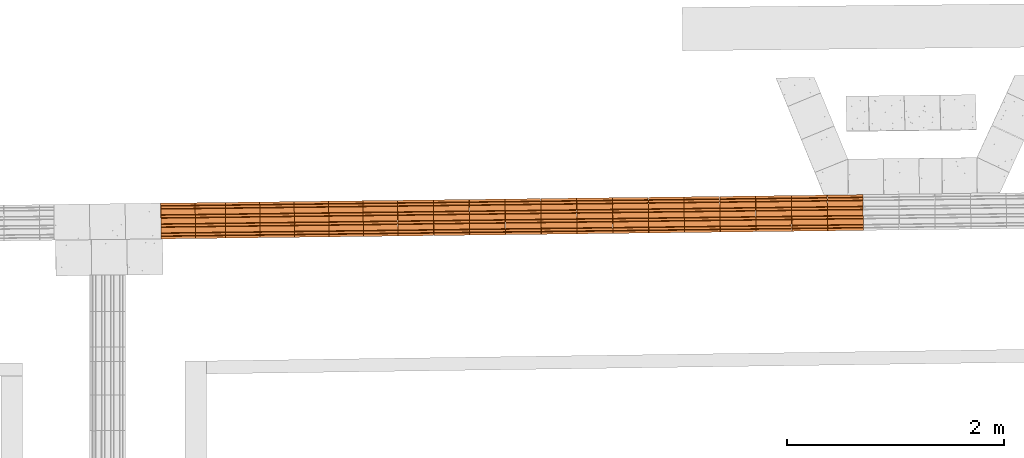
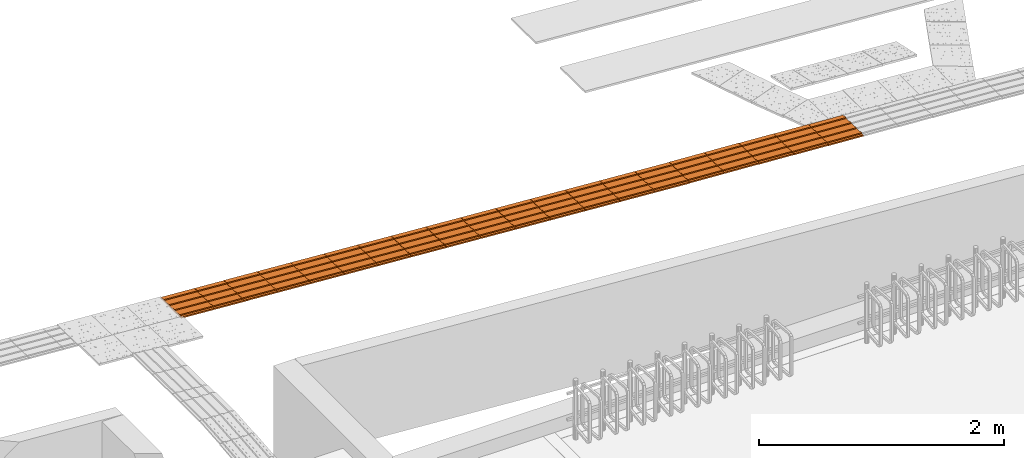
# One storey, part 203 of 237: 20 proxies.
"""IFC2X3 building model written with IfcOpenShell, lengths in millimetres."""

from ifc_helpers import new_model, entity, si_unit, converted_unit, derived_unit, money_unit, direction, frame, origin_with_axes, place, context, subcontext, project, spatial, open_shell, surface_model, source, transform, mapped, type_object, element, save


model = new_model("IFC2X3")

# Units and contexts
model_context = context("Model", 3, precision=0.01, world=origin_with_axes(), true_north=direction((0.0, 1.0)))
body_context = subcontext(model_context, "Body", "Model", "MODEL_VIEW")
ifc_project = project(units=[si_unit("LENGTHUNIT", "METRE", prefix="MILLI"), si_unit("AREAUNIT", "SQUARE_METRE"), si_unit("VOLUMEUNIT", "CUBIC_METRE"), converted_unit("PLANEANGLEUNIT", "DEGREE", entity("IfcPlaneAngleMeasure", 0.0174532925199), si_unit("PLANEANGLEUNIT", "RADIAN"), dimensions=[0, 0, 0, 0, 0, 0, 0]), money_unit("USD"), converted_unit("TIMEUNIT", "Year", entity("IfcTimeMeasure", 31556926.0), si_unit("TIMEUNIT", "SECOND"), dimensions=[0, 0, 1, 0, 0, 0, 0]), si_unit("MASSUNIT", "GRAM", prefix="KILO"), si_unit("THERMODYNAMICTEMPERATUREUNIT", "DEGREE_CELSIUS"), si_unit("LUMINOUSINTENSITYUNIT", "LUMEN"), si_unit("ENERGYUNIT", "JOULE", prefix="MEGA"), derived_unit("THERMALCONDUCTANCEUNIT", [(si_unit("POWERUNIT", "WATT"), 1), (si_unit("LENGTHUNIT", "METRE"), -1), (si_unit("THERMODYNAMICTEMPERATUREUNIT", "KELVIN"), -1)]), derived_unit("SPECIFICHEATCAPACITYUNIT", [(si_unit("ENERGYUNIT", "JOULE"), 1), (si_unit("MASSUNIT", "GRAM", prefix="KILO"), -1), (si_unit("THERMODYNAMICTEMPERATUREUNIT", "KELVIN"), -1)]), derived_unit("MASSDENSITYUNIT", [(si_unit("MASSUNIT", "GRAM", prefix="KILO"), 1), (si_unit("VOLUMEUNIT", "CUBIC_METRE"), -1)])], contexts=[model_context])

# Site, building, storey
site_placement = place(None, origin_with_axes())
site = spatial("IfcSite", under=ifc_project, at=site_placement, Name="Local", CompositionType="ELEMENT")
building_placement = place(site_placement, origin_with_axes())
building = spatial("IfcBuilding", under=site, at=building_placement, Name="Construção", CompositionType="ELEMENT")
storey_placement = place(building_placement, origin_with_axes())
storey = spatial("IfcBuildingStorey", under=building, at=storey_placement, Name="Pavimento Térreo", CompositionType="ELEMENT", Elevation=0.0)

# Proxies
building_element_proxy_type = type_object("IfcBuildingElementProxyType", Name="Piso Direcional 27", PredefinedType="NOTDEFINED")
shared_shape_1 = source(origin_with_axes(), body_context, "Body", "SurfaceModel", [
    surface_model("IfcShellBasedSurfaceModel", [(-0.316074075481, -47.2564877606, 4.01610191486), (317.647804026, -47.2564877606, 29.04040183), (317.124743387, -41.6634730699, 35.6865173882), (-0.839134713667, -41.6634730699, 10.6622174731)], [open_shell([[[0, 1, 2, 3]]])]),
    surface_model("IfcShellBasedSurfaceModel", [(318.693925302, -153.523766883, 15.7481707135), (318.693925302, 176.464099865, 15.7481707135), (317.647804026, 176.464099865, 29.04040183), (317.647804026, 154.092041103, 29.04040183), (317.124743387, 148.499026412, 35.6865173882), (317.124743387, 126.12696765, 35.6865173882), (317.647804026, 120.533952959, 29.04040183), (317.647804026, 70.1968207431, 29.04040183), (317.124743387, 64.6038060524, 35.6865173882), (317.124743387, 42.2317472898, 35.6865173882), (317.647804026, 36.6387325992, 29.04040183), (317.647804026, -13.6983996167, 29.04040183), (317.124743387, -19.2914143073, 35.6865173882), (317.124743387, -41.6634730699, 35.6865173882), (317.647804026, -47.2564877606, 29.04040183), (317.647804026, -97.5936199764, 29.04040183), (317.124743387, -103.186634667, 35.6865173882), (317.124743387, -125.55869343, 35.6865173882), (317.647804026, -131.15170812, 29.04040183), (317.647804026, -153.523766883, 29.04040183)], [open_shell([[[0, 1, 2, 3, 4, 5, 6, 7, 8, 9, 10, 11, 12, 13, 14, 15, 16, 17, 18, 19]]])]),
    surface_model("IfcShellBasedSurfaceModel", [(-0.839134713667, -19.2914143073, 10.6622174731), (317.124743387, -19.2914143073, 35.6865173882), (317.647804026, -13.6983996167, 29.04040183), (-0.316074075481, -13.6983996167, 4.01610191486)], [open_shell([[[0, 1, 2, 3]]])]),
    surface_model("IfcShellBasedSurfaceModel", [(-0.839134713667, -103.186634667, 10.6622174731), (317.124743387, -103.186634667, 35.6865173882), (317.647804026, -97.5936199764, 29.04040183), (-0.316074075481, -97.5936199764, 4.01610191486)], [open_shell([[[0, 1, 2, 3]]])]),
    surface_model("IfcShellBasedSurfaceModel", [(-0.839134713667, 64.6038060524, 10.6622174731), (317.124743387, 64.6038060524, 35.6865173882), (317.647804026, 70.1968207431, 29.04040183), (-0.316074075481, 70.1968207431, 4.01610191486)], [open_shell([[[0, 1, 2, 3]]])]),
    surface_model("IfcShellBasedSurfaceModel", [(-0.316074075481, 36.6387325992, 4.01610191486), (317.647804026, 36.6387325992, 29.04040183), (317.124743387, 42.2317472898, 35.6865173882), (-0.839134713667, 42.2317472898, 10.6622174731)], [open_shell([[[0, 1, 2, 3]]])]),
    surface_model("IfcShellBasedSurfaceModel", [(-0.316074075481, -131.15170812, 4.01610191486), (317.647804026, -131.15170812, 29.04040183), (317.124743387, -125.55869343, 35.6865173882), (-0.839134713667, -125.55869343, 10.6622174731)], [open_shell([[[0, 1, 2, 3]]])]),
    surface_model("IfcShellBasedSurfaceModel", [(-0.316074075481, 176.464099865, 4.01610191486), (-0.316074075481, 154.092041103, 4.01610191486), (317.647804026, 154.092041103, 29.04040183), (317.647804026, 176.464099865, 29.04040183)], [open_shell([[[0, 1, 2, 3]]])]),
    surface_model("IfcShellBasedSurfaceModel", [(-0.316074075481, 120.533952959, 4.01610191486), (317.647804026, 120.533952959, 29.04040183), (317.124743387, 126.12696765, 35.6865173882), (-0.839134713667, 126.12696765, 10.6622174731)], [open_shell([[[0, 1, 2, 3]]])]),
    surface_model("IfcShellBasedSurfaceModel", [(-0.839134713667, 148.499026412, 10.6622174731), (317.124743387, 148.499026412, 35.6865173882), (317.647804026, 154.092041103, 29.04040183), (-0.316074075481, 154.092041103, 4.01610191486)], [open_shell([[[0, 1, 2, 3]]])]),
    surface_model("IfcShellBasedSurfaceModel", [(-0.316074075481, 36.6387325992, 4.01610191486), (-0.316074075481, -13.6983996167, 4.01610191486), (317.647804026, -13.6983996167, 29.04040183), (317.647804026, 36.6387325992, 29.04040183)], [open_shell([[[0, 1, 2, 3]]])]),
    surface_model("IfcShellBasedSurfaceModel", [(-0.316074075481, 120.533952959, 4.01610191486), (-0.316074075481, 70.1968207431, 4.01610191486), (317.647804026, 70.1968207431, 29.04040183), (317.647804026, 120.533952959, 29.04040183)], [open_shell([[[0, 1, 2, 3]]])]),
    surface_model("IfcShellBasedSurfaceModel", [(-0.839134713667, 148.499026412, 10.6622174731), (-0.839134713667, 126.12696765, 10.6622174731), (317.124743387, 126.12696765, 35.6865173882), (317.124743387, 148.499026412, 35.6865173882)], [open_shell([[[0, 1, 2, 3]]])]),
    surface_model("IfcShellBasedSurfaceModel", [(-0.316074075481, 120.533952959, 4.01610191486), (-0.839134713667, 126.12696765, 10.6622174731), (-0.839134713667, 148.499026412, 10.6622174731), (-0.316074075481, 154.092041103, 4.01610191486), (-0.316074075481, 176.464099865, 4.01610191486), (0.73004720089, 176.464099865, -9.27612920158), (0.73004720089, -153.523766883, -9.27612920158), (-0.316074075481, -153.523766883, 4.01610191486), (-0.316074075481, -131.15170812, 4.01610191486), (-0.839134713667, -125.55869343, 10.6622174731), (-0.839134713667, -103.186634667, 10.6622174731), (-0.316074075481, -97.5936199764, 4.01610191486), (-0.316074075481, -47.2564877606, 4.01610191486), (-0.839134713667, -41.6634730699, 10.6622174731), (-0.839134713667, -19.2914143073, 10.6622174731), (-0.316074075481, -13.6983996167, 4.01610191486), (-0.316074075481, 36.6387325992, 4.01610191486), (-0.839134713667, 42.2317472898, 10.6622174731), (-0.839134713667, 64.6038060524, 10.6622174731), (-0.316074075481, 70.1968207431, 4.01610191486)], [open_shell([[[0, 1, 2, 3, 4, 5, 6, 7, 8, 9, 10, 11, 12, 13, 14, 15, 16, 17, 18, 19]]])]),
    surface_model("IfcShellBasedSurfaceModel", [(317.124743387, -41.6634730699, 35.6865173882), (317.124743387, -19.2914143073, 35.6865173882), (-0.839134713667, -19.2914143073, 10.6622174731), (-0.839134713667, -41.6634730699, 10.6622174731)], [open_shell([[[0, 1, 2, 3]]])]),
    surface_model("IfcShellBasedSurfaceModel", [(-0.316074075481, -47.2564877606, 4.01610191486), (-0.316074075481, -97.5936199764, 4.01610191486), (317.647804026, -97.5936199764, 29.04040183), (317.647804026, -47.2564877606, 29.04040183)], [open_shell([[[0, 1, 2, 3]]])]),
    surface_model("IfcShellBasedSurfaceModel", [(317.124743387, 42.2317472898, 35.6865173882), (317.124743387, 64.6038060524, 35.6865173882), (-0.839134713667, 64.6038060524, 10.6622174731), (-0.839134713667, 42.2317472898, 10.6622174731)], [open_shell([[[0, 1, 2, 3]]])]),
    surface_model("IfcShellBasedSurfaceModel", [(317.124743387, -125.55869343, 35.6865173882), (317.124743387, -103.186634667, 35.6865173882), (-0.839134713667, -103.186634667, 10.6622174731), (-0.839134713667, -125.55869343, 10.6622174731)], [open_shell([[[0, 1, 2, 3]]])]),
    surface_model("IfcShellBasedSurfaceModel", [(318.693925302, 176.464099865, 15.7481707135), (0.73004720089, 176.464099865, -9.27612920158), (-0.316074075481, 176.464099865, 4.01610191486), (317.647804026, 176.464099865, 29.04040183)], [open_shell([[[0, 1, 2, 3]]])]),
    surface_model("IfcShellBasedSurfaceModel", [(318.693925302, -153.523766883, 15.7481707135), (0.73004720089, -153.523766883, -9.27612920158), (0.73004720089, 176.464099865, -9.27612920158), (318.693925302, 176.464099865, 15.7481707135)], [open_shell([[[0, 1, 2, 3]]])]),
    surface_model("IfcShellBasedSurfaceModel", [(317.647804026, -153.523766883, 29.04040183), (317.647804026, -131.15170812, 29.04040183), (-0.316074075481, -131.15170812, 4.01610191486), (-0.316074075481, -153.523766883, 4.01610191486)], [open_shell([[[0, 1, 2, 3]]])]),
    surface_model("IfcShellBasedSurfaceModel", [(0.73004720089, -153.523766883, -9.27612920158), (318.693925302, -153.523766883, 15.7481707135), (317.647804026, -153.523766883, 29.04040183), (-0.316074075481, -153.523766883, 4.01610191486)], [open_shell([[[0, 1, 2, 3]]])]),
])
for number, where, z_axis, x_axis, name in (
    (1, (126525.953586, 37583.2941957, -7430.33994681), (0.0, 0.0, 1.0), (-0.999926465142, -0.012127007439, 0.0), "Objeto-0055"),
    (2, (125890.072593, 37575.5822967, -7380.29134698), (0.0, 0.0, 1.0), (-0.999926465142, -0.012127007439, 0.0), "Objeto-0055"),
    (3, (125572.132096, 37571.7263472, -7355.26704706), (0.0, 0.0, 1.0), (-0.999926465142, -0.012127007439, 0.0), "Objeto-0055"),
    (4, (125254.191599, 37567.8703977, -7330.24274715), (0.0, 0.0, 1.0), (-0.999926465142, -0.012127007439, 0.0), "Objeto-0055"),
    (5, (124975.865705, 37564.4949223, -7309.99993559), (0.0, 0.0, 1.0), (-0.999926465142, -0.012127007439, 0.0), "Objeto-0055"),
    (6, (126208.013089, 37579.4382462, -7405.31564689), (0.0, 0.0, 1.0), (-0.999926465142, -0.012127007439, 0.0), "Objeto-0055"),
    (7, (124657.925208, 37560.6389728, -7284.97563568), (0.0, 0.0, 1.0), (-0.999926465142, -0.012127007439, 0.0), "Objeto-0055"),
):
    element("IfcBuildingElementProxy", number, at=place(storey_placement, frame(where, z_axis=z_axis, x_axis=x_axis)), inside=storey, type_object=building_element_proxy_type, Name=name, context=body_context, shape_type="MappedRepresentation", body=[
        mapped(shared_shape_1, transform((0.0, 0.0, 0.0))),
    ])
shared_shape_2 = source(origin_with_axes(), body_context, "Body", "SurfaceModel", [
    surface_model("IfcShellBasedSurfaceModel", [(-0.316074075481, -47.258225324, 4.01610191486), (328.666646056, -47.258225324, 29.907603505), (328.143585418, -41.665004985, 36.5537190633), (-0.839134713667, -41.665004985, 10.6622174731)], [open_shell([[[0, 1, 2, 3]]])]),
    surface_model("IfcShellBasedSurfaceModel", [(329.712767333, -153.529411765, 16.6153723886), (329.712767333, 176.470588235, 16.6153723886), (328.666646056, 176.470588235, 29.907603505), (328.666646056, 154.097706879, 29.907603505), (328.143585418, 148.50448654, 36.5537190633), (328.143585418, 126.131605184, 36.5537190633), (328.666646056, 120.538384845, 29.907603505), (328.666646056, 70.1994017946, 29.907603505), (328.143585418, 64.6061814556, 36.5537190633), (328.143585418, 42.2333000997, 36.5537190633), (328.666646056, 36.6400797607, 29.907603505), (328.666646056, -13.6989032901, 29.907603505), (328.143585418, -19.2921236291, 36.5537190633), (328.143585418, -41.665004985, 36.5537190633), (328.666646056, -47.258225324, 29.907603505), (328.666646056, -97.5972083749, 29.907603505), (328.143585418, -103.190428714, 36.5537190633), (328.143585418, -125.56331007, 36.5537190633), (328.666646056, -131.156530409, 29.907603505), (328.666646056, -153.529411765, 29.907603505)], [open_shell([[[0, 1, 2, 3, 4, 5, 6, 7, 8, 9, 10, 11, 12, 13, 14, 15, 16, 17, 18, 19]]])]),
    surface_model("IfcShellBasedSurfaceModel", [(-0.839134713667, -19.2921236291, 10.6622174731), (328.143585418, -19.2921236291, 36.5537190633), (328.666646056, -13.6989032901, 29.907603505), (-0.316074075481, -13.6989032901, 4.01610191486)], [open_shell([[[0, 1, 2, 3]]])]),
    surface_model("IfcShellBasedSurfaceModel", [(-0.839134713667, -103.190428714, 10.6622174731), (328.143585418, -103.190428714, 36.5537190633), (328.666646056, -97.5972083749, 29.907603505), (-0.316074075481, -97.5972083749, 4.01610191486)], [open_shell([[[0, 1, 2, 3]]])]),
    surface_model("IfcShellBasedSurfaceModel", [(-0.839134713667, 64.6061814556, 10.6622174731), (328.143585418, 64.6061814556, 36.5537190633), (328.666646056, 70.1994017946, 29.907603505), (-0.316074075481, 70.1994017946, 4.01610191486)], [open_shell([[[0, 1, 2, 3]]])]),
    surface_model("IfcShellBasedSurfaceModel", [(-0.316074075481, 36.6400797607, 4.01610191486), (328.666646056, 36.6400797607, 29.907603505), (328.143585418, 42.2333000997, 36.5537190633), (-0.839134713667, 42.2333000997, 10.6622174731)], [open_shell([[[0, 1, 2, 3]]])]),
    surface_model("IfcShellBasedSurfaceModel", [(-0.316074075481, -131.156530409, 4.01610191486), (328.666646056, -131.156530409, 29.907603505), (328.143585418, -125.56331007, 36.5537190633), (-0.839134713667, -125.56331007, 10.6622174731)], [open_shell([[[0, 1, 2, 3]]])]),
    surface_model("IfcShellBasedSurfaceModel", [(-0.316074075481, 176.470588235, 4.01610191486), (-0.316074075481, 154.097706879, 4.01610191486), (328.666646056, 154.097706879, 29.907603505), (328.666646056, 176.470588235, 29.907603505)], [open_shell([[[0, 1, 2, 3]]])]),
    surface_model("IfcShellBasedSurfaceModel", [(-0.316074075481, 120.538384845, 4.01610191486), (328.666646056, 120.538384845, 29.907603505), (328.143585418, 126.131605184, 36.5537190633), (-0.839134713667, 126.131605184, 10.6622174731)], [open_shell([[[0, 1, 2, 3]]])]),
    surface_model("IfcShellBasedSurfaceModel", [(-0.839134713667, 148.50448654, 10.6622174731), (328.143585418, 148.50448654, 36.5537190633), (328.666646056, 154.097706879, 29.907603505), (-0.316074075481, 154.097706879, 4.01610191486)], [open_shell([[[0, 1, 2, 3]]])]),
    surface_model("IfcShellBasedSurfaceModel", [(-0.316074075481, 36.6400797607, 4.01610191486), (-0.316074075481, -13.6989032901, 4.01610191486), (328.666646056, -13.6989032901, 29.907603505), (328.666646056, 36.6400797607, 29.907603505)], [open_shell([[[0, 1, 2, 3]]])]),
    surface_model("IfcShellBasedSurfaceModel", [(-0.316074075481, 120.538384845, 4.01610191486), (-0.316074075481, 70.1994017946, 4.01610191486), (328.666646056, 70.1994017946, 29.907603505), (328.666646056, 120.538384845, 29.907603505)], [open_shell([[[0, 1, 2, 3]]])]),
    surface_model("IfcShellBasedSurfaceModel", [(-0.839134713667, 148.50448654, 10.6622174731), (-0.839134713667, 126.131605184, 10.6622174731), (328.143585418, 126.131605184, 36.5537190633), (328.143585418, 148.50448654, 36.5537190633)], [open_shell([[[0, 1, 2, 3]]])]),
    surface_model("IfcShellBasedSurfaceModel", [(-0.316074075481, 120.538384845, 4.01610191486), (-0.839134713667, 126.131605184, 10.6622174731), (-0.839134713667, 148.50448654, 10.6622174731), (-0.316074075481, 154.097706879, 4.01610191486), (-0.316074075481, 176.470588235, 4.01610191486), (0.73004720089, 176.470588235, -9.27612920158), (0.73004720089, -153.529411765, -9.27612920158), (-0.316074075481, -153.529411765, 4.01610191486), (-0.316074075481, -131.156530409, 4.01610191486), (-0.839134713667, -125.56331007, 10.6622174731), (-0.839134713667, -103.190428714, 10.6622174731), (-0.316074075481, -97.5972083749, 4.01610191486), (-0.316074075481, -47.258225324, 4.01610191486), (-0.839134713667, -41.665004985, 10.6622174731), (-0.839134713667, -19.2921236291, 10.6622174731), (-0.316074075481, -13.6989032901, 4.01610191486), (-0.316074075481, 36.6400797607, 4.01610191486), (-0.839134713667, 42.2333000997, 10.6622174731), (-0.839134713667, 64.6061814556, 10.6622174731), (-0.316074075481, 70.1994017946, 4.01610191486)], [open_shell([[[0, 1, 2, 3, 4, 5, 6, 7, 8, 9, 10, 11, 12, 13, 14, 15, 16, 17, 18, 19]]])]),
    surface_model("IfcShellBasedSurfaceModel", [(328.143585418, -41.665004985, 36.5537190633), (328.143585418, -19.2921236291, 36.5537190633), (-0.839134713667, -19.2921236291, 10.6622174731), (-0.839134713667, -41.665004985, 10.6622174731)], [open_shell([[[0, 1, 2, 3]]])]),
    surface_model("IfcShellBasedSurfaceModel", [(-0.316074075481, -47.258225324, 4.01610191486), (-0.316074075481, -97.5972083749, 4.01610191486), (328.666646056, -97.5972083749, 29.907603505), (328.666646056, -47.258225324, 29.907603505)], [open_shell([[[0, 1, 2, 3]]])]),
    surface_model("IfcShellBasedSurfaceModel", [(328.143585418, 42.2333000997, 36.5537190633), (328.143585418, 64.6061814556, 36.5537190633), (-0.839134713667, 64.6061814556, 10.6622174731), (-0.839134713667, 42.2333000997, 10.6622174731)], [open_shell([[[0, 1, 2, 3]]])]),
    surface_model("IfcShellBasedSurfaceModel", [(328.143585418, -125.56331007, 36.5537190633), (328.143585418, -103.190428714, 36.5537190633), (-0.839134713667, -103.190428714, 10.6622174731), (-0.839134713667, -125.56331007, 10.6622174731)], [open_shell([[[0, 1, 2, 3]]])]),
    surface_model("IfcShellBasedSurfaceModel", [(329.712767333, 176.470588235, 16.6153723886), (0.73004720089, 176.470588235, -9.27612920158), (-0.316074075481, 176.470588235, 4.01610191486), (328.666646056, 176.470588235, 29.907603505)], [open_shell([[[0, 1, 2, 3]]])]),
    surface_model("IfcShellBasedSurfaceModel", [(329.712767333, -153.529411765, 16.6153723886), (0.73004720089, -153.529411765, -9.27612920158), (0.73004720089, 176.470588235, -9.27612920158), (329.712767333, 176.470588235, 16.6153723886)], [open_shell([[[0, 1, 2, 3]]])]),
    surface_model("IfcShellBasedSurfaceModel", [(328.666646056, -153.529411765, 29.907603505), (328.666646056, -131.156530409, 29.907603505), (-0.316074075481, -131.156530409, 4.01610191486), (-0.316074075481, -153.529411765, 4.01610191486)], [open_shell([[[0, 1, 2, 3]]])]),
    surface_model("IfcShellBasedSurfaceModel", [(0.73004720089, -153.529411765, -9.27612920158), (329.712767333, -153.529411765, 16.6153723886), (328.666646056, -153.529411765, 29.907603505), (-0.316074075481, -153.529411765, 4.01610191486)], [open_shell([[[0, 1, 2, 3]]])]),
])
for number, where, z_axis, x_axis, name in (
    (8, (126856.691368, 37587.2997049, -7456.56672757), (0.0, 0.0, 1.0), (-0.999926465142, -0.012127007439, 0.0), "Objeto-0055"),
    (9, (128841.117651, 37611.366627, -7613.92741214), (0.0, 0.0, 1.0), (-0.999926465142, -0.012127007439, 0.0), "Objeto-0055"),
    (10, (128179.642223, 37603.3443196, -7561.47385062), (0.0, 0.0, 1.0), (-0.999926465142, -0.012127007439, 0.0), "Objeto-0055"),
    (11, (128510.379937, 37607.3554733, -7587.70063138), (0.0, 0.0, 1.0), (-0.999926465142, -0.012127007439, 0.0), "Objeto-0055"),
    (12, (127848.90451, 37599.333166, -7535.24706986), (0.0, 0.0, 1.0), (-0.999926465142, -0.012127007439, 0.0), "Objeto-0055"),
    (13, (127518.166796, 37595.3220123, -7509.0202891), (0.0, 0.0, 1.0), (-0.999926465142, -0.012127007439, 0.0), "Objeto-0055"),
    (14, (127187.429082, 37591.3108586, -7482.79350833), (0.0, 0.0, 1.0), (-0.999926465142, -0.012127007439, 0.0), "Objeto-0055"),
    (15, (129171.855365, 37615.3777807, -7640.15419291), (0.0, 0.0, 1.0), (-0.999926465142, -0.012127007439, 0.0), "Objeto-0055"),
):
    element("IfcBuildingElementProxy", number, at=place(storey_placement, frame(where, z_axis=z_axis, x_axis=x_axis)), inside=storey, type_object=building_element_proxy_type, Name=name, context=body_context, shape_type="MappedRepresentation", body=[
        mapped(shared_shape_2, transform((0.0, 0.0, 0.0))),
    ])
shared_shape_3 = source(origin_with_axes(), body_context, "Body", "SurfaceModel", [
    surface_model("IfcShellBasedSurfaceModel", [(-0.281015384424, -47.258225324, 4.01870722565), (328.915121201, -47.258225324, 27.0383435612), (328.450078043, -41.665004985, 33.6887705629), (-0.746058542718, -41.665004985, 10.6691342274)], [open_shell([[[0, 1, 2, 3]]])]),
    surface_model("IfcShellBasedSurfaceModel", [(329.845207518, -153.529411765, 13.7374895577), (329.845207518, 176.470588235, 13.7374895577), (328.915121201, 176.470588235, 27.0383435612), (328.915121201, 154.097706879, 27.0383435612), (328.450078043, 148.50448654, 33.6887705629), (328.450078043, 126.131605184, 33.6887705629), (328.915121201, 120.538384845, 27.0383435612), (328.915121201, 70.1994017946, 27.0383435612), (328.450078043, 64.6061814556, 33.6887705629), (328.450078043, 42.2333000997, 33.6887705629), (328.915121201, 36.6400797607, 27.0383435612), (328.915121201, -13.6989032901, 27.0383435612), (328.450078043, -19.2921236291, 33.6887705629), (328.450078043, -41.665004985, 33.6887705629), (328.915121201, -47.258225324, 27.0383435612), (328.915121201, -97.5972083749, 27.0383435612), (328.450078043, -103.190428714, 33.6887705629), (328.450078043, -125.56331007, 33.6887705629), (328.915121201, -131.156530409, 27.0383435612), (328.915121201, -153.529411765, 27.0383435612)], [open_shell([[[0, 1, 2, 3, 4, 5, 6, 7, 8, 9, 10, 11, 12, 13, 14, 15, 16, 17, 18, 19]]])]),
    surface_model("IfcShellBasedSurfaceModel", [(-0.746058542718, -19.2921236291, 10.6691342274), (328.450078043, -19.2921236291, 33.6887705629), (328.915121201, -13.6989032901, 27.0383435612), (-0.281015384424, -13.6989032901, 4.01870722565)], [open_shell([[[0, 1, 2, 3]]])]),
    surface_model("IfcShellBasedSurfaceModel", [(-0.746058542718, -103.190428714, 10.6691342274), (328.450078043, -103.190428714, 33.6887705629), (328.915121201, -97.5972083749, 27.0383435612), (-0.281015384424, -97.5972083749, 4.01870722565)], [open_shell([[[0, 1, 2, 3]]])]),
    surface_model("IfcShellBasedSurfaceModel", [(-0.746058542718, 64.6061814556, 10.6691342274), (328.450078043, 64.6061814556, 33.6887705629), (328.915121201, 70.1994017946, 27.0383435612), (-0.281015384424, 70.1994017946, 4.01870722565)], [open_shell([[[0, 1, 2, 3]]])]),
    surface_model("IfcShellBasedSurfaceModel", [(-0.281015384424, 36.6400797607, 4.01870722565), (328.915121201, 36.6400797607, 27.0383435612), (328.450078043, 42.2333000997, 33.6887705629), (-0.746058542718, 42.2333000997, 10.6691342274)], [open_shell([[[0, 1, 2, 3]]])]),
    surface_model("IfcShellBasedSurfaceModel", [(-0.281015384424, -131.156530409, 4.01870722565), (328.915121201, -131.156530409, 27.0383435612), (328.450078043, -125.56331007, 33.6887705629), (-0.746058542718, -125.56331007, 10.6691342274)], [open_shell([[[0, 1, 2, 3]]])]),
    surface_model("IfcShellBasedSurfaceModel", [(-0.281015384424, 176.470588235, 4.01870722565), (-0.281015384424, 154.097706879, 4.01870722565), (328.915121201, 154.097706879, 27.0383435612), (328.915121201, 176.470588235, 27.0383435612)], [open_shell([[[0, 1, 2, 3]]])]),
    surface_model("IfcShellBasedSurfaceModel", [(-0.281015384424, 120.538384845, 4.01870722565), (328.915121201, 120.538384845, 27.0383435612), (328.450078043, 126.131605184, 33.6887705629), (-0.746058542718, 126.131605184, 10.6691342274)], [open_shell([[[0, 1, 2, 3]]])]),
    surface_model("IfcShellBasedSurfaceModel", [(-0.746058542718, 148.50448654, 10.6691342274), (328.450078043, 148.50448654, 33.6887705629), (328.915121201, 154.097706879, 27.0383435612), (-0.281015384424, 154.097706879, 4.01870722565)], [open_shell([[[0, 1, 2, 3]]])]),
    surface_model("IfcShellBasedSurfaceModel", [(-0.281015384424, 36.6400797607, 4.01870722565), (-0.281015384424, -13.6989032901, 4.01870722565), (328.915121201, -13.6989032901, 27.0383435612), (328.915121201, 36.6400797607, 27.0383435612)], [open_shell([[[0, 1, 2, 3]]])]),
    surface_model("IfcShellBasedSurfaceModel", [(-0.281015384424, 120.538384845, 4.01870722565), (-0.281015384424, 70.1994017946, 4.01870722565), (328.915121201, 70.1994017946, 27.0383435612), (328.915121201, 120.538384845, 27.0383435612)], [open_shell([[[0, 1, 2, 3]]])]),
    surface_model("IfcShellBasedSurfaceModel", [(-0.746058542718, 148.50448654, 10.6691342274), (-0.746058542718, 126.131605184, 10.6691342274), (328.450078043, 126.131605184, 33.6887705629), (328.450078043, 148.50448654, 33.6887705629)], [open_shell([[[0, 1, 2, 3]]])]),
    surface_model("IfcShellBasedSurfaceModel", [(-0.281015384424, 120.538384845, 4.01870722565), (-0.746058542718, 126.131605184, 10.6691342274), (-0.746058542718, 148.50448654, 10.6691342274), (-0.281015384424, 154.097706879, 4.01870722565), (-0.281015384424, 176.470588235, 4.01870722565), (0.649070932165, 176.470588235, -9.28214677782), (0.649070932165, -153.529411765, -9.28214677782), (-0.281015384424, -153.529411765, 4.01870722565), (-0.281015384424, -131.156530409, 4.01870722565), (-0.746058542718, -125.56331007, 10.6691342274), (-0.746058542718, -103.190428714, 10.6691342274), (-0.281015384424, -97.5972083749, 4.01870722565), (-0.281015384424, -47.258225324, 4.01870722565), (-0.746058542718, -41.665004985, 10.6691342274), (-0.746058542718, -19.2921236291, 10.6691342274), (-0.281015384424, -13.6989032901, 4.01870722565), (-0.281015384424, 36.6400797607, 4.01870722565), (-0.746058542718, 42.2333000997, 10.6691342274), (-0.746058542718, 64.6061814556, 10.6691342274), (-0.281015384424, 70.1994017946, 4.01870722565)], [open_shell([[[0, 1, 2, 3, 4, 5, 6, 7, 8, 9, 10, 11, 12, 13, 14, 15, 16, 17, 18, 19]]])]),
    surface_model("IfcShellBasedSurfaceModel", [(328.450078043, -41.665004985, 33.6887705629), (328.450078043, -19.2921236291, 33.6887705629), (-0.746058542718, -19.2921236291, 10.6691342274), (-0.746058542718, -41.665004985, 10.6691342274)], [open_shell([[[0, 1, 2, 3]]])]),
    surface_model("IfcShellBasedSurfaceModel", [(-0.281015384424, -47.258225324, 4.01870722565), (-0.281015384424, -97.5972083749, 4.01870722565), (328.915121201, -97.5972083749, 27.0383435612), (328.915121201, -47.258225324, 27.0383435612)], [open_shell([[[0, 1, 2, 3]]])]),
    surface_model("IfcShellBasedSurfaceModel", [(328.450078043, 42.2333000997, 33.6887705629), (328.450078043, 64.6061814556, 33.6887705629), (-0.746058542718, 64.6061814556, 10.6691342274), (-0.746058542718, 42.2333000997, 10.6691342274)], [open_shell([[[0, 1, 2, 3]]])]),
    surface_model("IfcShellBasedSurfaceModel", [(328.450078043, -125.56331007, 33.6887705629), (328.450078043, -103.190428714, 33.6887705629), (-0.746058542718, -103.190428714, 10.6691342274), (-0.746058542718, -125.56331007, 10.6691342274)], [open_shell([[[0, 1, 2, 3]]])]),
    surface_model("IfcShellBasedSurfaceModel", [(329.845207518, 176.470588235, 13.7374895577), (0.649070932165, 176.470588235, -9.28214677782), (-0.281015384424, 176.470588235, 4.01870722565), (328.915121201, 176.470588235, 27.0383435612)], [open_shell([[[0, 1, 2, 3]]])]),
    surface_model("IfcShellBasedSurfaceModel", [(329.845207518, -153.529411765, 13.7374895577), (0.649070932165, -153.529411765, -9.28214677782), (0.649070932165, 176.470588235, -9.28214677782), (329.845207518, 176.470588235, 13.7374895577)], [open_shell([[[0, 1, 2, 3]]])]),
    surface_model("IfcShellBasedSurfaceModel", [(328.915121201, -153.529411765, 27.0383435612), (328.915121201, -131.156530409, 27.0383435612), (-0.281015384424, -131.156530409, 4.01870722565), (-0.281015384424, -153.529411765, 4.01870722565)], [open_shell([[[0, 1, 2, 3]]])]),
    surface_model("IfcShellBasedSurfaceModel", [(0.649070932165, -153.529411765, -9.28214677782), (329.845207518, -153.529411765, 13.7374895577), (328.915121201, -153.529411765, 27.0383435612), (-0.281015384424, -153.529411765, 4.01870722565)], [open_shell([[[0, 1, 2, 3]]])]),
])
for number, where, z_axis, x_axis, name in (
    (16, (130824.601789, 37635.4221228, -7760.08574665), (0.0, 0.0, 1.0), (-0.999926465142, -0.012127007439, 0.0), "Objeto-0055"),
    (17, (130493.790147, 37631.4100725, -7734.82735382), (0.0, 0.0, 1.0), (-0.999926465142, -0.012127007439, 0.0), "Objeto-0055"),
    (18, (129501.179002, 37619.3717846, -7661.36047571), (0.0, 0.0, 1.0), (-0.999926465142, -0.012127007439, 0.0), "Objeto-0055"),
    (19, (129832.166863, 37623.385972, -7684.31056816), (0.0, 0.0, 1.0), (-0.999926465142, -0.012127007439, 0.0), "Objeto-0055"),
    (20, (130162.978505, 37627.3980223, -7709.56896099), (0.0, 0.0, 1.0), (-0.999926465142, -0.012127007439, 0.0), "Objeto-0055"),
):
    element("IfcBuildingElementProxy", number, at=place(storey_placement, frame(where, z_axis=z_axis, x_axis=x_axis)), inside=storey, type_object=building_element_proxy_type, Name=name, context=body_context, shape_type="MappedRepresentation", body=[
        mapped(shared_shape_3, transform((0.0, 0.0, 0.0))),
    ])

save(model, "model.ifc")
